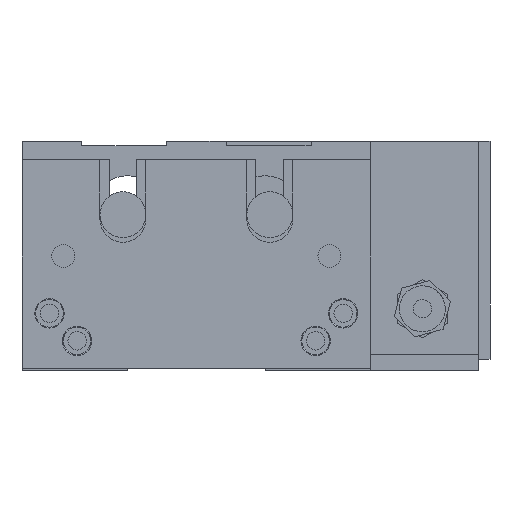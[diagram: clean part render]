
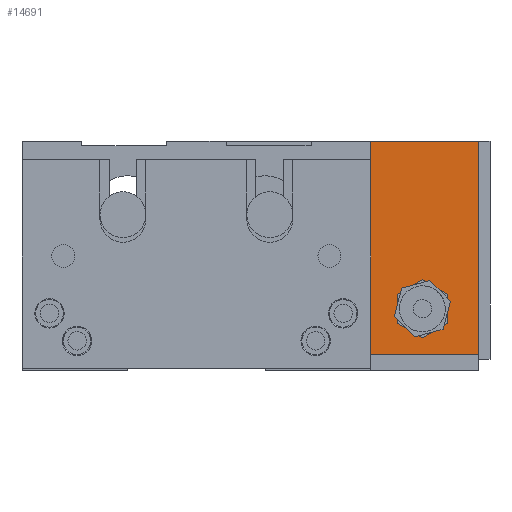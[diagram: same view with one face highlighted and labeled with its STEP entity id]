
A CAD part, front view. The second image highlights one B-rep face of the part: STEP entity #14691.
In plain terms, the highlighted planar face has unit normal (0, -1, 0) as drawn and (0, 0, 1) by its records, which use the part's own axes.
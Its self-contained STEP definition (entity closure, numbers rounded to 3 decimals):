
#14442 = VERTEX_POINT ( 'NONE', #30933 ) ;
#14623 = VERTEX_POINT ( 'NONE', #31262 ) ;
#14634 = EDGE_CURVE ( 'NONE', #14638, #14623, #31323, .T. ) ;
#14638 = VERTEX_POINT ( 'NONE', #31256 ) ;
#14654 = VERTEX_POINT ( 'NONE', #31301 ) ;
#14664 = EDGE_CURVE ( 'NONE', #14623, #14654, #16032, .T. ) ;
#14675 = VERTEX_POINT ( 'NONE', #16019 ) ;
#14676 = EDGE_LOOP ( 'NONE', ( #14682, #14840 ) ) ;
#14682 = ORIENTED_EDGE ( 'NONE', *, *, #14717, .T. ) ;
#14685 = EDGE_CURVE ( 'NONE', #14654, #14675, #16066, .T. ) ;
#14688 = EDGE_LOOP ( 'NONE', ( #14690, #14859, #14855, #14838 ) ) ;
#14690 = ORIENTED_EDGE ( 'NONE', *, *, #14634, .T. ) ;
#14691 = ADVANCED_FACE ( 'NONE', ( #16056, #16055 ), #16070, .F. ) ;
#14717 = EDGE_CURVE ( 'NONE', #14744, #14442, #16133, .T. ) ;
#14718 = EDGE_CURVE ( 'NONE', #14675, #14638, #16075, .T. ) ;
#14744 = VERTEX_POINT ( 'NONE', #16165 ) ;
#14746 = EDGE_CURVE ( 'NONE', #14442, #14744, #16110, .T. ) ;
#14838 = ORIENTED_EDGE ( 'NONE', *, *, #14718, .T. ) ;
#14840 = ORIENTED_EDGE ( 'NONE', *, *, #14746, .T. ) ;
#14855 = ORIENTED_EDGE ( 'NONE', *, *, #14685, .T. ) ;
#14859 = ORIENTED_EDGE ( 'NONE', *, *, #14664, .T. ) ;
#16013 = CARTESIAN_POINT ( 'NONE',  ( 24.5, 0., 13. ) ) ;
#16016 = VECTOR ( 'NONE', #16064, 1000. ) ;
#16019 = CARTESIAN_POINT ( 'NONE',  ( 24.5, 46.5, 13. ) ) ;
#16029 = DIRECTION ( 'NONE',  ( 1., 0., 0. ) ) ;
#16030 = VECTOR ( 'NONE', #16029, 1000. ) ;
#16031 = CARTESIAN_POINT ( 'NONE',  ( 0., 0., 13. ) ) ;
#16032 = LINE ( 'NONE', #16031, #16030 ) ;
#16045 = DIRECTION ( 'NONE',  ( -1., 0., 0. ) ) ;
#16046 = DIRECTION ( 'NONE',  ( 0., 0., -1. ) ) ;
#16048 = CARTESIAN_POINT ( 'NONE',  ( 12.25, 36.5, 13. ) ) ;
#16054 = CARTESIAN_POINT ( 'NONE',  ( 0., 46.5, 13. ) ) ;
#16055 = FACE_OUTER_BOUND ( 'NONE', #14688, .T. ) ;
#16056 = FACE_BOUND ( 'NONE', #14676, .T. ) ;
#16058 = AXIS2_PLACEMENT_3D ( 'NONE', #16054, #16046, #16045 ) ;
#16064 = DIRECTION ( 'NONE',  ( 0., 1., 0. ) ) ;
#16066 = LINE ( 'NONE', #16013, #16016 ) ;
#16070 = PLANE ( 'NONE',  #16058 ) ;
#16075 = LINE ( 'NONE', #16135, #16116 ) ;
#16110 = CIRCLE ( 'NONE', #16151, 5. ) ;
#16116 = VECTOR ( 'NONE', #16134, 1000. ) ;
#16121 = DIRECTION ( 'NONE',  ( -1., 0., 0. ) ) ;
#16122 = DIRECTION ( 'NONE',  ( 0., 0., -1. ) ) ;
#16129 = AXIS2_PLACEMENT_3D ( 'NONE', #16048, #16122, #16121 ) ;
#16133 = CIRCLE ( 'NONE', #16129, 5. ) ;
#16134 = DIRECTION ( 'NONE',  ( -1., 0., 0. ) ) ;
#16135 = CARTESIAN_POINT ( 'NONE',  ( 0., 46.5, 13. ) ) ;
#16149 = DIRECTION ( 'NONE',  ( -1., 0., 0. ) ) ;
#16150 = DIRECTION ( 'NONE',  ( 0., 0., -1. ) ) ;
#16151 = AXIS2_PLACEMENT_3D ( 'NONE', #16167, #16150, #16149 ) ;
#16165 = CARTESIAN_POINT ( 'NONE',  ( 7.25, 36.5, 13. ) ) ;
#16167 = CARTESIAN_POINT ( 'NONE',  ( 12.25, 36.5, 13. ) ) ;
#30933 = CARTESIAN_POINT ( 'NONE',  ( 17.25, 36.5, 13. ) ) ;
#31256 = CARTESIAN_POINT ( 'NONE',  ( 0., 46.5, 13. ) ) ;
#31262 = CARTESIAN_POINT ( 'NONE',  ( 0., 0., 13. ) ) ;
#31301 = CARTESIAN_POINT ( 'NONE',  ( 24.5, 0., 13. ) ) ;
#31314 = DIRECTION ( 'NONE',  ( 0., -1., 0. ) ) ;
#31315 = VECTOR ( 'NONE', #31314, 1000. ) ;
#31322 = CARTESIAN_POINT ( 'NONE',  ( 0., 0., 13. ) ) ;
#31323 = LINE ( 'NONE', #31322, #31315 ) ;
